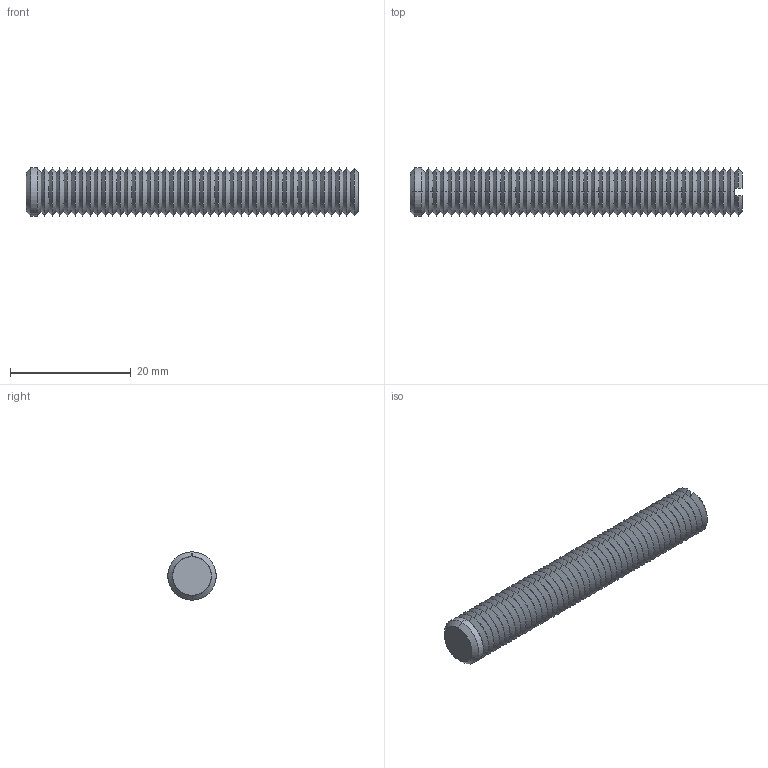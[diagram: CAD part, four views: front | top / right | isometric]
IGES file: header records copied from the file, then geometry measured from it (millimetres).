
Start section: SolidWorks IGES file using analytic representation for surfaces
Global section: file name: C:\Documents and Settings\IANO\Desktop\Temp File\Process pending\EXISTING\34300_v2\34300_v2_20170622_IGES\34300.W0086.igs; native system: SolidWorks 2009; preprocessor: SolidWorks 2009; author: IANO; date: 170622.093839; units: millimetre
Bounding box: 55 x 8 x 8 mm (x, y, z)
Surface area: 2057.9 mm2 (no closed solid volume)
Topology: 0 solids, 0 shells, 180 faces, 784 edges, 784 vertices
Faces by surface type: revolution 174, bspline 6
